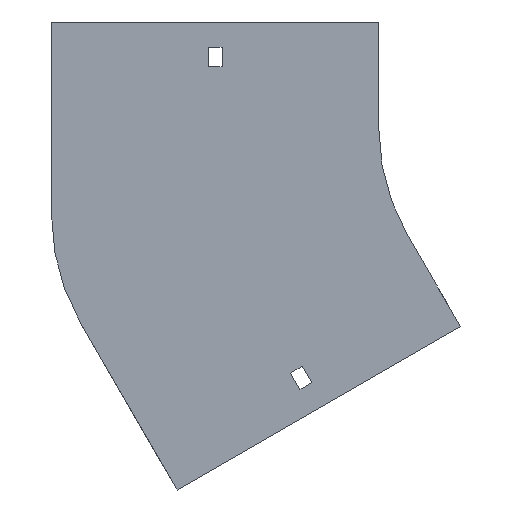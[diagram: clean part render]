
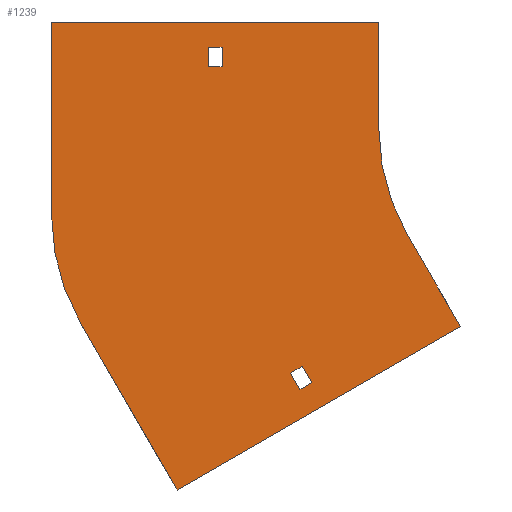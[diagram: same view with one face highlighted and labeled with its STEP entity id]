
A CAD part, front view. The second image highlights one B-rep face of the part: STEP entity #1239.
In plain terms, the highlighted planar face has unit normal (0, -1, 0).
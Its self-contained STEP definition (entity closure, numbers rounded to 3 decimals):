
#2 = CARTESIAN_POINT ( 'NONE',  ( -141.601, 0., -115.24 ) ) ;
#20 = DIRECTION ( 'NONE',  ( 0.866, 0., 0.5 ) ) ;
#28 = CARTESIAN_POINT ( 'NONE',  ( -180.25, 0., 29. ) ) ;
#31 = VECTOR ( 'NONE', #1218, 1000. ) ;
#32 = LINE ( 'NONE', #1341, #96 ) ;
#64 = VERTEX_POINT ( 'NONE', #908 ) ;
#66 = CARTESIAN_POINT ( 'NONE',  ( -100., 0., 50. ) ) ;
#87 = CARTESIAN_POINT ( 'NONE',  ( -180.25, 0., 29. ) ) ;
#95 = VERTEX_POINT ( 'NONE', #179 ) ;
#96 = VECTOR ( 'NONE', #218, 1000. ) ;
#98 = CARTESIAN_POINT ( 'NONE',  ( -180.25, 0., 38. ) ) ;
#104 = DIRECTION ( 'NONE',  ( 1., 0., 0. ) ) ;
#109 = VERTEX_POINT ( 'NONE', #819 ) ;
#118 = CARTESIAN_POINT ( 'NONE',  ( -137.101, 0., -123.034 ) ) ;
#151 = VECTOR ( 'NONE', #104, 1000. ) ;
#169 = VERTEX_POINT ( 'NONE', #716 ) ;
#179 = CARTESIAN_POINT ( 'NONE',  ( -86.603, 0., -50. ) ) ;
#187 = EDGE_CURVE ( 'NONE', #987, #334, #745, .T. ) ;
#190 = VECTOR ( 'NONE', #195, 1000. ) ;
#195 = DIRECTION ( 'NONE',  ( 0.5, 0., -0.866 ) ) ;
#218 = DIRECTION ( 'NONE',  ( -0.866, 0., -0.5 ) ) ;
#224 = ORIENTED_EDGE ( 'NONE', *, *, #1186, .T. ) ;
#229 = CARTESIAN_POINT ( 'NONE',  ( -154., 0., -41.264 ) ) ;
#236 = ORIENTED_EDGE ( 'NONE', *, *, #532, .F. ) ;
#243 = PLANE ( 'NONE',  #1271 ) ;
#251 = ORIENTED_EDGE ( 'NONE', *, *, #616, .F. ) ;
#254 = LINE ( 'NONE', #2, #310 ) ;
#265 = CARTESIAN_POINT ( 'NONE',  ( -240.603, 0., -91.264 ) ) ;
#287 = CARTESIAN_POINT ( 'NONE',  ( -194.97, 0., -170.301 ) ) ;
#310 = VECTOR ( 'NONE', #1299, 1000. ) ;
#315 = ORIENTED_EDGE ( 'NONE', *, *, #823, .F. ) ;
#334 = VERTEX_POINT ( 'NONE', #265 ) ;
#361 = VECTOR ( 'NONE', #20, 1000. ) ;
#363 = CARTESIAN_POINT ( 'NONE',  ( -173.75, 0., 29. ) ) ;
#380 = LINE ( 'NONE', #1243, #736 ) ;
#388 = CARTESIAN_POINT ( 'NONE',  ( -173.75, 0., 38. ) ) ;
#396 = DIRECTION ( 'NONE',  ( 0., 0., -1. ) ) ;
#417 = VECTOR ( 'NONE', #1178, 1000. ) ;
#425 = EDGE_CURVE ( 'NONE', #657, #95, #593, .T. ) ;
#447 = VERTEX_POINT ( 'NONE', #388 ) ;
#454 = ORIENTED_EDGE ( 'NONE', *, *, #1364, .F. ) ;
#468 = DIRECTION ( 'NONE',  ( 0., 0., -1. ) ) ;
#472 = EDGE_CURVE ( 'NONE', #95, #64, #1388, .T. ) ;
#520 = VERTEX_POINT ( 'NONE', #98 ) ;
#524 = CARTESIAN_POINT ( 'NONE',  ( -194.97, 0., -170.301 ) ) ;
#532 = EDGE_CURVE ( 'NONE', #109, #1131, #935, .T. ) ;
#553 = EDGE_CURVE ( 'NONE', #581, #109, #1313, .T. ) ;
#559 = LINE ( 'NONE', #763, #1001 ) ;
#561 = ORIENTED_EDGE ( 'NONE', *, *, #1236, .F. ) ;
#562 = FACE_OUTER_BOUND ( 'NONE', #1187, .T. ) ;
#570 = CARTESIAN_POINT ( 'NONE',  ( 0., 0., 0. ) ) ;
#581 = VERTEX_POINT ( 'NONE', #1098 ) ;
#593 = CIRCLE ( 'NONE', #776, 100. ) ;
#608 = DIRECTION ( 'NONE',  ( 0., -1., 0. ) ) ;
#616 = EDGE_CURVE ( 'NONE', #1131, #1337, #32, .T. ) ;
#652 = ORIENTED_EDGE ( 'NONE', *, *, #1378, .F. ) ;
#657 = VERTEX_POINT ( 'NONE', #1121 ) ;
#668 = FACE_BOUND ( 'NONE', #964, .T. ) ;
#670 = LINE ( 'NONE', #1104, #151 ) ;
#674 = VERTEX_POINT ( 'NONE', #66 ) ;
#685 = ORIENTED_EDGE ( 'NONE', *, *, #769, .T. ) ;
#686 = CARTESIAN_POINT ( 'NONE',  ( -254., 0., 50. ) ) ;
#697 = CARTESIAN_POINT ( 'NONE',  ( -135.972, 0., -111.99 ) ) ;
#711 = VECTOR ( 'NONE', #468, 1000. ) ;
#716 = CARTESIAN_POINT ( 'NONE',  ( -254., 0., -41.264 ) ) ;
#736 = VECTOR ( 'NONE', #806, 1000. ) ;
#745 = LINE ( 'NONE', #524, #830 ) ;
#747 = CARTESIAN_POINT ( 'NONE',  ( -100., 0., 50. ) ) ;
#763 = CARTESIAN_POINT ( 'NONE',  ( -61.603, 0., -93.301 ) ) ;
#769 = EDGE_CURVE ( 'NONE', #520, #447, #670, .T. ) ;
#776 = AXIS2_PLACEMENT_3D ( 'NONE', #921, #608, #396 ) ;
#781 = DIRECTION ( 'NONE',  ( 0., 1., 0. ) ) ;
#790 = EDGE_CURVE ( 'NONE', #993, #520, #380, .T. ) ;
#794 = DIRECTION ( 'NONE',  ( -1., 0., 0. ) ) ;
#799 = ORIENTED_EDGE ( 'NONE', *, *, #425, .F. ) ;
#806 = DIRECTION ( 'NONE',  ( 0., 0., 1. ) ) ;
#817 = VERTEX_POINT ( 'NONE', #1230 ) ;
#819 = CARTESIAN_POINT ( 'NONE',  ( -131.472, 0., -119.784 ) ) ;
#823 = EDGE_CURVE ( 'NONE', #1337, #581, #254, .T. ) ;
#826 = CARTESIAN_POINT ( 'NONE',  ( -135.972, 0., -111.99 ) ) ;
#830 = VECTOR ( 'NONE', #1190, 1000. ) ;
#837 = CARTESIAN_POINT ( 'NONE',  ( -86.603, 0., -50. ) ) ;
#857 = ORIENTED_EDGE ( 'NONE', *, *, #790, .T. ) ;
#862 = ORIENTED_EDGE ( 'NONE', *, *, #1166, .T. ) ;
#885 = LINE ( 'NONE', #28, #1133 ) ;
#908 = CARTESIAN_POINT ( 'NONE',  ( -61.603, 0., -93.301 ) ) ;
#911 = EDGE_CURVE ( 'NONE', #64, #987, #559, .T. ) ;
#921 = CARTESIAN_POINT ( 'NONE',  ( 0., 0., 0. ) ) ;
#922 = ORIENTED_EDGE ( 'NONE', *, *, #472, .F. ) ;
#935 = LINE ( 'NONE', #826, #417 ) ;
#954 = VERTEX_POINT ( 'NONE', #1227 ) ;
#964 = EDGE_LOOP ( 'NONE', ( #1257, #315, #251, #236 ) ) ;
#969 = LINE ( 'NONE', #747, #1202 ) ;
#970 = EDGE_CURVE ( 'NONE', #954, #674, #1233, .T. ) ;
#987 = VERTEX_POINT ( 'NONE', #287 ) ;
#993 = VERTEX_POINT ( 'NONE', #87 ) ;
#1001 = VECTOR ( 'NONE', #1204, 1000. ) ;
#1003 = DIRECTION ( 'NONE',  ( 0., 0., -1. ) ) ;
#1057 = CARTESIAN_POINT ( 'NONE',  ( -141.601, 0., -115.24 ) ) ;
#1084 = LINE ( 'NONE', #363, #711 ) ;
#1092 = EDGE_LOOP ( 'NONE', ( #857, #685, #862, #224 ) ) ;
#1098 = CARTESIAN_POINT ( 'NONE',  ( -137.101, 0., -123.034 ) ) ;
#1099 = DIRECTION ( 'NONE',  ( 0., 0., 1. ) ) ;
#1102 = FACE_BOUND ( 'NONE', #1092, .T. ) ;
#1104 = CARTESIAN_POINT ( 'NONE',  ( -180.25, 0., 38. ) ) ;
#1109 = CIRCLE ( 'NONE', #1154, 100. ) ;
#1115 = ORIENTED_EDGE ( 'NONE', *, *, #911, .F. ) ;
#1118 = CARTESIAN_POINT ( 'NONE',  ( -254., 0., -41.264 ) ) ;
#1121 = CARTESIAN_POINT ( 'NONE',  ( -100., 0., 0. ) ) ;
#1124 = DIRECTION ( 'NONE',  ( 1., 0., 0. ) ) ;
#1131 = VERTEX_POINT ( 'NONE', #697 ) ;
#1133 = VECTOR ( 'NONE', #794, 1000. ) ;
#1154 = AXIS2_PLACEMENT_3D ( 'NONE', #229, #781, #1099 ) ;
#1166 = EDGE_CURVE ( 'NONE', #447, #817, #1084, .T. ) ;
#1178 = DIRECTION ( 'NONE',  ( -0.5, 0., 0.866 ) ) ;
#1186 = EDGE_CURVE ( 'NONE', #817, #993, #885, .T. ) ;
#1187 = EDGE_LOOP ( 'NONE', ( #1213, #561, #652, #1224, #1115, #922, #799, #454 ) ) ;
#1190 = DIRECTION ( 'NONE',  ( -0.5, 0., 0.866 ) ) ;
#1192 = DIRECTION ( 'NONE',  ( 0., 0., -1. ) ) ;
#1202 = VECTOR ( 'NONE', #1192, 1000. ) ;
#1204 = DIRECTION ( 'NONE',  ( -0.866, 0., -0.5 ) ) ;
#1213 = ORIENTED_EDGE ( 'NONE', *, *, #970, .F. ) ;
#1218 = DIRECTION ( 'NONE',  ( 0., 0., 1. ) ) ;
#1224 = ORIENTED_EDGE ( 'NONE', *, *, #187, .F. ) ;
#1227 = CARTESIAN_POINT ( 'NONE',  ( -254., 0., 50. ) ) ;
#1230 = CARTESIAN_POINT ( 'NONE',  ( -173.75, 0., 29. ) ) ;
#1233 = LINE ( 'NONE', #686, #1370 ) ;
#1234 = DIRECTION ( 'NONE',  ( 0., -1., 0. ) ) ;
#1236 = EDGE_CURVE ( 'NONE', #169, #954, #1320, .T. ) ;
#1239 = ADVANCED_FACE ( 'NONE', ( #1102, #562, #668 ), #243, .T. ) ;
#1243 = CARTESIAN_POINT ( 'NONE',  ( -180.25, 0., 29. ) ) ;
#1257 = ORIENTED_EDGE ( 'NONE', *, *, #553, .F. ) ;
#1271 = AXIS2_PLACEMENT_3D ( 'NONE', #570, #1234, #1003 ) ;
#1299 = DIRECTION ( 'NONE',  ( 0.5, 0., -0.866 ) ) ;
#1313 = LINE ( 'NONE', #118, #361 ) ;
#1320 = LINE ( 'NONE', #1118, #31 ) ;
#1337 = VERTEX_POINT ( 'NONE', #1057 ) ;
#1341 = CARTESIAN_POINT ( 'NONE',  ( -141.601, 0., -115.24 ) ) ;
#1364 = EDGE_CURVE ( 'NONE', #674, #657, #969, .T. ) ;
#1370 = VECTOR ( 'NONE', #1124, 1000. ) ;
#1378 = EDGE_CURVE ( 'NONE', #334, #169, #1109, .T. ) ;
#1388 = LINE ( 'NONE', #837, #190 ) ;
